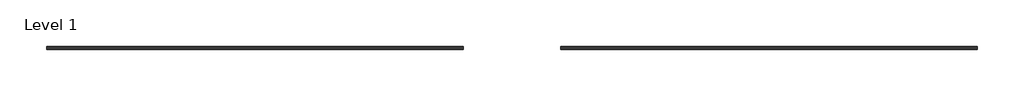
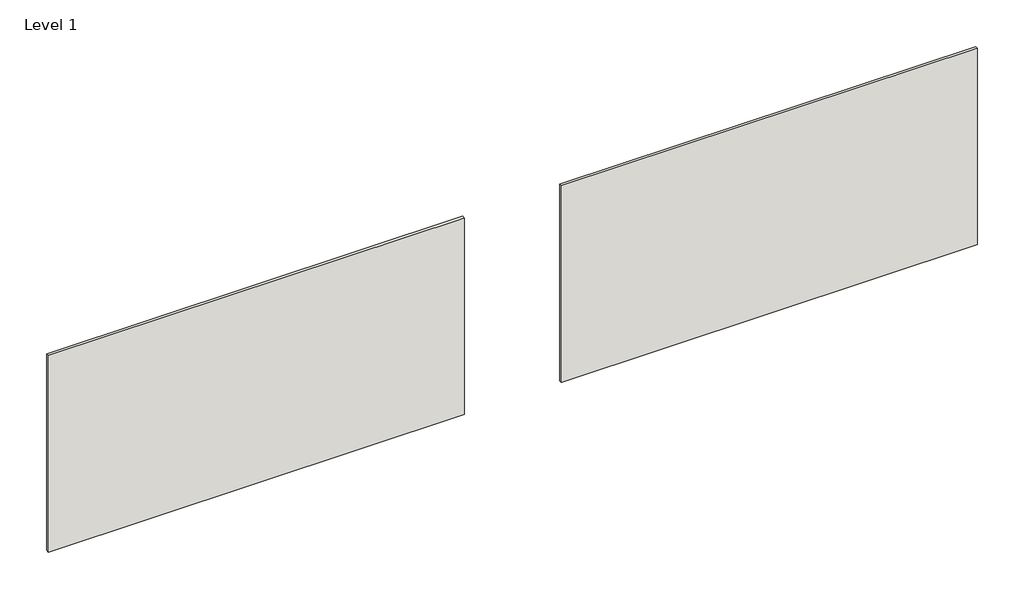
# One storey: 2 walls.
"""IFC4 building model written with IfcOpenShell, lengths in millimetres."""

from ifc_helpers import new_model, si_unit, origin, origin_with_axes, place, context, project, spatial, polyline, outline, extrude, element, save

model = new_model("IFC4")

# Units and contexts
model_context = context("Model", 3, world=origin())
ifc_project = project(units=[si_unit("LENGTHUNIT", "METRE", prefix="MILLI")], contexts=[model_context])

# Site, building, storey
site = spatial("IfcSite", under=ifc_project)
building = spatial("IfcBuilding", under=site)
storey = spatial("IfcBuildingStorey", under=building, Name="Level 1", Elevation=0.0)

# Walls
placement = place(None, origin())
element("IfcWall", 1, ObjectType="Metal_Panel-MBCI-Architectural-DesignerTM_Series_16.0_Fluted", at=placement, inside=storey, context=model_context, shape_type="SweptSolid", body=[
    extrude(outline(polyline([(-803.6008325, -2365.7826515), (5292.3991675, -2365.7826515), (5292.3991675, -2407.3624515), (-803.6008325, -2407.3624515), (-803.6008325, -2365.7826515)])), origin_with_axes(), (0.0, 0.0, 1.0), 3048.0),
])
element("IfcWall", 2, ObjectType="Metal_Panel-MBCI-Architectural-DesignerTM_Series_12.0_Flat", at=placement, inside=storey, context=model_context, shape_type="SweptSolid", body=[
    extrude(outline(polyline([(-8322.0008325, -2363.5538015), (-2226.0008325, -2363.5538015), (-2226.0008325, -2409.5913015), (-8322.0008325, -2409.5913015), (-8322.0008325, -2363.5538015)])), origin_with_axes(), (0.0, 0.0, 1.0), 3048.0),
])

save(model, "model.ifc")
